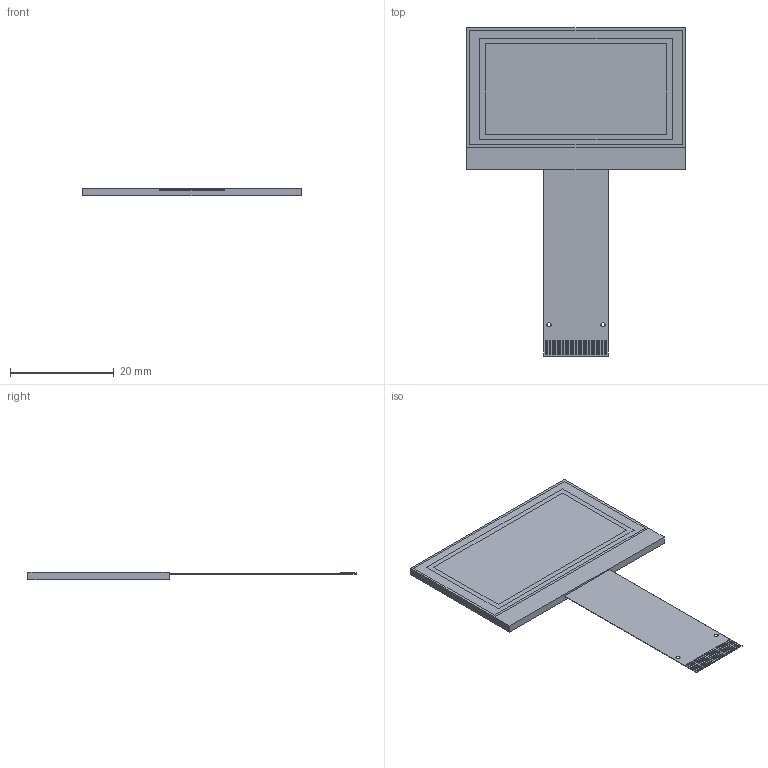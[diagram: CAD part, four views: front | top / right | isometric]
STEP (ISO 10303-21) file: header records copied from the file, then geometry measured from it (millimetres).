
FILE_DESCRIPTION (( 'STEP AP214' ), '1' );
FILE_NAME ('CFAL12864D1-0154M-Y.STEP', '2021-03-16T22:25:34', ( '' ), ( '' ), 'SwSTEP 2.0', 'SolidWorks 2020', '' );
FILE_SCHEMA (( 'AUTOMOTIVE_DESIGN' ));
Length unit declared in the file: millimetre
Products named in the file (1): CFAL12864D1-0154M-Y
Bounding box: 42.04 x 63.22 x 1.45 mm (x, y, z)
Volume: 1708.5 mm3; surface area: 3472.6 mm2
Topology: 26 solids, 26 shells, 164 faces, 339 edges, 230 vertices
Faces by surface type: plane 160, cylinder 4
Entity records: 6173 total; most frequent: CARTESIAN_POINT 734, ORIENTED_EDGE 678, DIRECTION 677, EDGE_CURVE 339, VECTOR 331, LINE 331, VERTEX_POINT 230, UNCERTAINTY_MEASURE_WITH_UNIT 177
